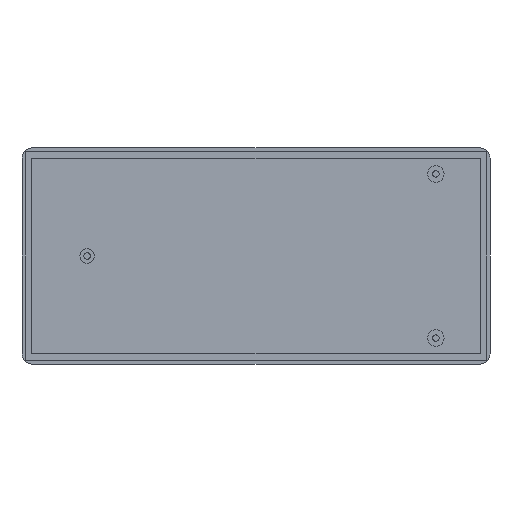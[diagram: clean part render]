
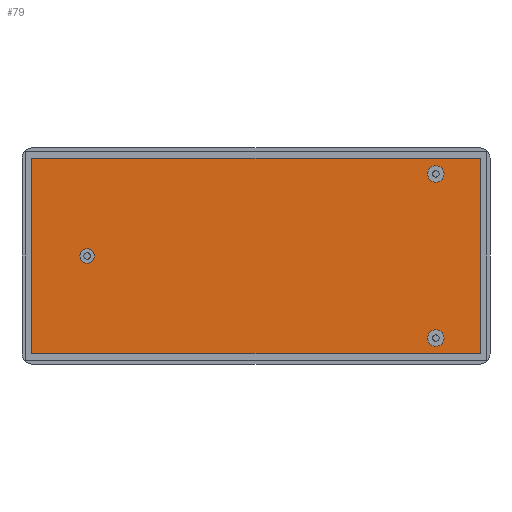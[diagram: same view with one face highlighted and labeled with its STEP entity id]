
A CAD part, front view. The second image highlights one B-rep face of the part: STEP entity #79.
In plain terms, the highlighted planar face has unit normal (0, -1, 0).
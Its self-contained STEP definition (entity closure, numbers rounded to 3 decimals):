
#21 = CARTESIAN_POINT ( 'NONE',  ( -62.75, 3.7, 27.35 ) ) ;
#32 = CARTESIAN_POINT ( 'NONE',  ( -62.75, 3.7, 27.35 ) ) ;
#59 = VERTEX_POINT ( 'NONE', #874 ) ;
#79 = ADVANCED_FACE ( 'NONE', ( #1695, #992, #1164, #1210 ), #1794, .T. ) ;
#135 = LINE ( 'NONE', #1310, #1790 ) ;
#161 = LINE ( 'NONE', #21, #955 ) ;
#173 = EDGE_CURVE ( 'NONE', #1506, #1384, #1290, .T. ) ;
#176 = AXIS2_PLACEMENT_3D ( 'NONE', #1575, #1470, #1450 ) ;
#210 = CIRCLE ( 'NONE', #1627, 2.3 ) ;
#213 = EDGE_CURVE ( 'NONE', #1660, #1506, #791, .T. ) ;
#267 = CARTESIAN_POINT ( 'NONE',  ( 62.75, 3.7, 27.35 ) ) ;
#306 = DIRECTION ( 'NONE',  ( 1., 0., 0. ) ) ;
#308 = ORIENTED_EDGE ( 'NONE', *, *, #510, .F. ) ;
#315 = ORIENTED_EDGE ( 'NONE', *, *, #1343, .F. ) ;
#320 = CARTESIAN_POINT ( 'NONE',  ( -62.75, 3.7, -27.35 ) ) ;
#332 = ORIENTED_EDGE ( 'NONE', *, *, #728, .F. ) ;
#359 = CARTESIAN_POINT ( 'NONE',  ( 50.35, 3.7, -25.275 ) ) ;
#366 = ORIENTED_EDGE ( 'NONE', *, *, #1023, .T. ) ;
#377 = DIRECTION ( 'NONE',  ( 0., 0., -1. ) ) ;
#388 = DIRECTION ( 'NONE',  ( 0., -1., 0. ) ) ;
#403 = DIRECTION ( 'NONE',  ( 0., -1., 0. ) ) ;
#411 = CARTESIAN_POINT ( 'NONE',  ( 62.75, 3.7, -27.35 ) ) ;
#415 = ORIENTED_EDGE ( 'NONE', *, *, #213, .T. ) ;
#465 = ORIENTED_EDGE ( 'NONE', *, *, #173, .T. ) ;
#477 = AXIS2_PLACEMENT_3D ( 'NONE', #511, #388, #377 ) ;
#500 = ORIENTED_EDGE ( 'NONE', *, *, #1262, .F. ) ;
#510 = EDGE_CURVE ( 'NONE', #59, #638, #882, .T. ) ;
#511 = CARTESIAN_POINT ( 'NONE',  ( 50.35, 3.7, 22.975 ) ) ;
#549 = ORIENTED_EDGE ( 'NONE', *, *, #894, .F. ) ;
#559 = CIRCLE ( 'NONE', #1441, 2.3 ) ;
#607 = AXIS2_PLACEMENT_3D ( 'NONE', #1123, #1115, #1022 ) ;
#609 = VECTOR ( 'NONE', #1758, 1000. ) ;
#617 = CARTESIAN_POINT ( 'NONE',  ( 50.35, 3.7, 25.275 ) ) ;
#638 = VERTEX_POINT ( 'NONE', #1308 ) ;
#664 = ORIENTED_EDGE ( 'NONE', *, *, #666, .F. ) ;
#666 = EDGE_CURVE ( 'NONE', #638, #59, #1063, .T. ) ;
#679 = CIRCLE ( 'NONE', #477, 2.3 ) ;
#691 = ORIENTED_EDGE ( 'NONE', *, *, #1730, .T. ) ;
#702 = AXIS2_PLACEMENT_3D ( 'NONE', #1741, #1737, #1669 ) ;
#728 = EDGE_CURVE ( 'NONE', #1489, #1616, #679, .T. ) ;
#791 = LINE ( 'NONE', #1776, #609 ) ;
#808 = CARTESIAN_POINT ( 'NONE',  ( 50.35, 3.7, -22.975 ) ) ;
#824 = EDGE_LOOP ( 'NONE', ( #415, #465, #366, #691 ) ) ;
#847 = DIRECTION ( 'NONE',  ( 0., 0., -1. ) ) ;
#851 = DIRECTION ( 'NONE',  ( 0., -1., 0. ) ) ;
#874 = CARTESIAN_POINT ( 'NONE',  ( -47.275, 3.7, -2. ) ) ;
#882 = CIRCLE ( 'NONE', #607, 2. ) ;
#894 = EDGE_CURVE ( 'NONE', #1787, #1766, #1594, .T. ) ;
#946 = DIRECTION ( 'NONE',  ( 0., 0., -1. ) ) ;
#955 = VECTOR ( 'NONE', #1154, 1000. ) ;
#990 = CARTESIAN_POINT ( 'NONE',  ( 50.35, 3.7, -22.975 ) ) ;
#992 = FACE_OUTER_BOUND ( 'NONE', #824, .T. ) ;
#1022 = DIRECTION ( 'NONE',  ( 0., 0., -1. ) ) ;
#1023 = EDGE_CURVE ( 'NONE', #1384, #1365, #135, .T. ) ;
#1045 = EDGE_LOOP ( 'NONE', ( #664, #308 ) ) ;
#1063 = CIRCLE ( 'NONE', #176, 2. ) ;
#1115 = DIRECTION ( 'NONE',  ( 0., -1., 0. ) ) ;
#1123 = CARTESIAN_POINT ( 'NONE',  ( -47.275, 3.7, 0. ) ) ;
#1154 = DIRECTION ( 'NONE',  ( -1., 0., 0. ) ) ;
#1164 = FACE_BOUND ( 'NONE', #1676, .T. ) ;
#1210 = FACE_BOUND ( 'NONE', #1045, .T. ) ;
#1211 = CARTESIAN_POINT ( 'NONE',  ( 50.35, 3.7, 22.975 ) ) ;
#1262 = EDGE_CURVE ( 'NONE', #1766, #1787, #559, .T. ) ;
#1271 = VECTOR ( 'NONE', #306, 1000. ) ;
#1290 = LINE ( 'NONE', #320, #1271 ) ;
#1296 = CARTESIAN_POINT ( 'NONE',  ( 50.35, 3.7, 20.675 ) ) ;
#1308 = CARTESIAN_POINT ( 'NONE',  ( -47.275, 3.7, 2. ) ) ;
#1310 = CARTESIAN_POINT ( 'NONE',  ( 62.75, 3.7, 27.35 ) ) ;
#1343 = EDGE_CURVE ( 'NONE', #1616, #1489, #210, .T. ) ;
#1345 = DIRECTION ( 'NONE',  ( 0., 0., -1. ) ) ;
#1365 = VERTEX_POINT ( 'NONE', #267 ) ;
#1384 = VERTEX_POINT ( 'NONE', #411 ) ;
#1430 = CARTESIAN_POINT ( 'NONE',  ( 50.35, 3.7, -20.675 ) ) ;
#1441 = AXIS2_PLACEMENT_3D ( 'NONE', #808, #1740, #946 ) ;
#1450 = DIRECTION ( 'NONE',  ( 0., 0., -1. ) ) ;
#1470 = DIRECTION ( 'NONE',  ( 0., -1., 0. ) ) ;
#1489 = VERTEX_POINT ( 'NONE', #617 ) ;
#1506 = VERTEX_POINT ( 'NONE', #1638 ) ;
#1563 = AXIS2_PLACEMENT_3D ( 'NONE', #990, #851, #847 ) ;
#1575 = CARTESIAN_POINT ( 'NONE',  ( -47.275, 3.7, 0. ) ) ;
#1589 = DIRECTION ( 'NONE',  ( 0., 0., 1. ) ) ;
#1594 = CIRCLE ( 'NONE', #1563, 2.3 ) ;
#1616 = VERTEX_POINT ( 'NONE', #1296 ) ;
#1627 = AXIS2_PLACEMENT_3D ( 'NONE', #1211, #403, #1345 ) ;
#1638 = CARTESIAN_POINT ( 'NONE',  ( -62.75, 3.7, -27.35 ) ) ;
#1660 = VERTEX_POINT ( 'NONE', #32 ) ;
#1669 = DIRECTION ( 'NONE',  ( 0., 0., -1. ) ) ;
#1676 = EDGE_LOOP ( 'NONE', ( #332, #315 ) ) ;
#1695 = FACE_BOUND ( 'NONE', #1784, .T. ) ;
#1730 = EDGE_CURVE ( 'NONE', #1365, #1660, #161, .T. ) ;
#1737 = DIRECTION ( 'NONE',  ( 0., -1., 0. ) ) ;
#1740 = DIRECTION ( 'NONE',  ( 0., -1., 0. ) ) ;
#1741 = CARTESIAN_POINT ( 'NONE',  ( 0., 3.7, 0. ) ) ;
#1758 = DIRECTION ( 'NONE',  ( 0., 0., -1. ) ) ;
#1766 = VERTEX_POINT ( 'NONE', #1430 ) ;
#1776 = CARTESIAN_POINT ( 'NONE',  ( -62.75, 3.7, 27.35 ) ) ;
#1784 = EDGE_LOOP ( 'NONE', ( #500, #549 ) ) ;
#1787 = VERTEX_POINT ( 'NONE', #359 ) ;
#1790 = VECTOR ( 'NONE', #1589, 1000. ) ;
#1794 = PLANE ( 'NONE',  #702 ) ;
